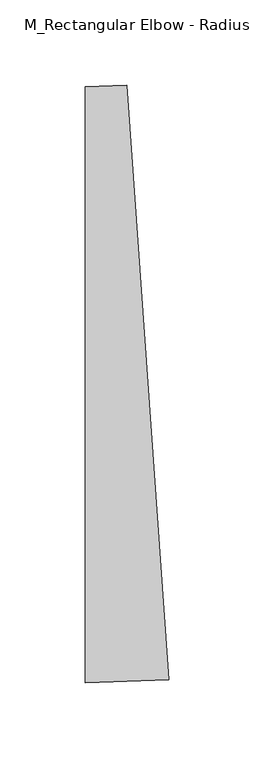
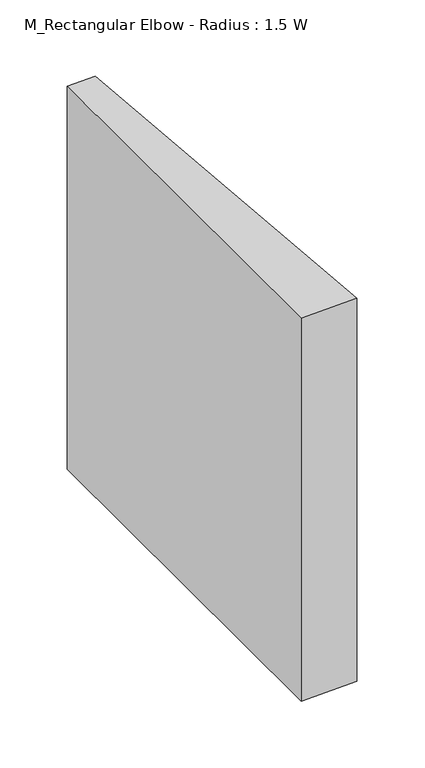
"""IFC4 building model written with IfcOpenShell, lengths in millimetres: duct fitting geometry, M_Rectangular Elbow - Radius : 1.5 W."""

from ifc_helpers import new_model, si_unit, point, frame, frame_2d, origin, place, context, project, spatial, polyline, circle_curve, trimmed, segment, composite_curve, outline, extrude, source, transform, mapped, element, save


def m_rectangular_elbow_radius_1_5_w_89e93b41(model_context):
    return source(origin(), model_context, "Body", "SweptSolid", [
        extrude(outline(composite_curve([segment(trimmed(circle_curve(frame_2d((-18.4281739, 525.0)), 700.0), [point((30.65315, -173.2771825))], [point((-18.4281739, -175.0))], False, "CARTESIAN"), True, "CONTINUOUS"), segment(polyline([(-18.4281739, -175.0), (-18.4281739, 175.0)]), True, "CONTINUOUS"), segment(trimmed(circle_curve(frame_2d((-18.4281739, 525.0)), 350.0), [point((-18.4281739, 175.0))], [point((6.1124881, 175.8614087))], True, "CARTESIAN"), True, "CONTINUOUS"), segment(polyline([(6.1124881, 175.8614087), (30.65315, -173.2771825)]), True, "CONTINUOUS")], self_intersect=False)), frame((0.0, 0.0, -175.0), z_axis=(0.0, 0.0, 1.0), x_axis=(1.0, 0.0, 0.0)), (0.0, 0.0, 1.0), 350.0),
        extrude(outline(composite_curve([segment(trimmed(circle_curve(frame_2d((-18.4281739, 525.0)), 700.0), [point((30.65315, -173.2771825))], [point((-18.4281739, -175.0))], False, "CARTESIAN"), True, "CONTINUOUS"), segment(polyline([(-18.4281739, -175.0), (-18.4281739, 175.0)]), True, "CONTINUOUS"), segment(trimmed(circle_curve(frame_2d((-18.4281739, 525.0)), 350.0), [point((-18.4281739, 175.0))], [point((6.1124881, 175.8614087))], True, "CARTESIAN"), True, "CONTINUOUS"), segment(polyline([(6.1124881, 175.8614087), (30.65315, -173.2771825)]), True, "CONTINUOUS")], self_intersect=False)), frame((0.0, 0.0, -175.0), z_axis=(0.0, 0.0, 1.0), x_axis=(1.0, 0.0, 0.0)), (0.0, 0.0, 1.0), 350.0),
        extrude(outline(composite_curve([segment(trimmed(circle_curve(frame_2d((-18.4281739, 525.0)), 700.0), [point((30.65315, -173.2771825))], [point((-18.4281739, -175.0))], False, "CARTESIAN"), True, "CONTINUOUS"), segment(polyline([(-18.4281739, -175.0), (-18.4281739, 175.0)]), True, "CONTINUOUS"), segment(trimmed(circle_curve(frame_2d((-18.4281739, 525.0)), 350.0), [point((-18.4281739, 175.0))], [point((6.1124881, 175.8614087))], True, "CARTESIAN"), True, "CONTINUOUS"), segment(polyline([(6.1124881, 175.8614087), (30.65315, -173.2771825)]), True, "CONTINUOUS")], self_intersect=False)), frame((0.0, 0.0, -175.0), z_axis=(0.0, 0.0, 1.0), x_axis=(1.0, 0.0, 0.0)), (0.0, 0.0, 1.0), 350.0),
    ])


if __name__ == "__main__":
    model = new_model("IFC4")
    model_context = context("Model", 3, world=origin())
    ifc_project = project(units=[si_unit("LENGTHUNIT", "METRE", prefix="MILLI")], contexts=[model_context])
    site = spatial("IfcSite", under=ifc_project)
    building = spatial("IfcBuilding", under=site)
    placement = place(None, origin())
    m_rectangular_elbow_radius_1_5_w_shape = m_rectangular_elbow_radius_1_5_w_89e93b41(model_context)
    element("IfcDuctFitting", 1, ObjectType="M_Rectangular Elbow - Radius : 1.5 W", at=placement, inside=building, context=model_context, shape_type="MappedRepresentation", body=[
        mapped(m_rectangular_elbow_radius_1_5_w_shape, transform((0.0, 0.0, 0.0), x_axis=(1.0, 0.0, 0.0), y_axis=(0.0, 1.0, 0.0), z_axis=(0.0, 0.0, 1.0))),
    ])
    save(model, "model.ifc")
